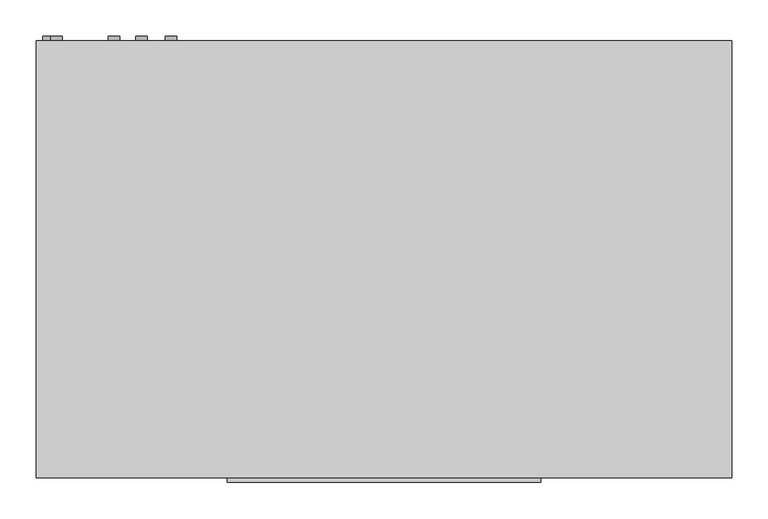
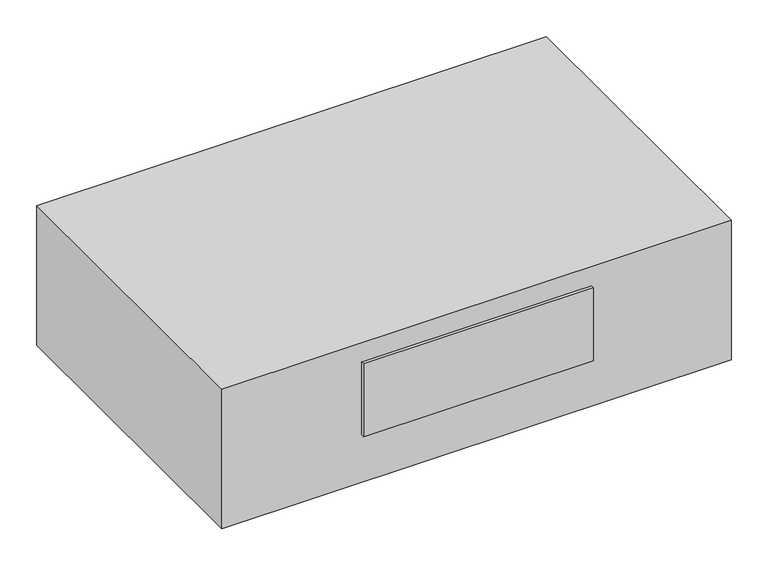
"""IFC4 building model written with IfcOpenShell, lengths in millimetres: proxy geometry, Exposed_Horizontal_Fan_Coil_Unit_-_42CGB_-_CARRIER_-_4-Pipe_FS-BR_LH_2022 : Size 02 - 277v/60Hz/1Ph - 4/1 Coil."""

from ifc_helpers import new_model, si_unit, point, frame, frame_2d, origin, place, context, project, spatial, polyline, circle_curve, trimmed, segment, composite_curve, outline, extrude, source, transform, mapped, element, save


def mechanical_equipment_85c1250f(model_context):
    return source(origin(), model_context, "Body", "SweptSolid", [
        extrude(outline(composite_curve([segment(trimmed(circle_curve(frame_2d((-261.434158, -311.3546393)), 9.525), [point((-261.434158, -301.8296393))], [point((-261.434158, -320.8796393))], False, "CARTESIAN"), True, "CONTINUOUS"), segment(trimmed(circle_curve(frame_2d((-261.434158, -311.3546393)), 9.525), [point((-261.434158, -320.8796393))], [point((-261.434158, -301.8296393))], False, "CARTESIAN"), True, "CONTINUOUS")], self_intersect=False)), frame((0.0, 65.0875, 0.0), z_axis=(0.0, 1.0, 0.0), x_axis=(0.0, 0.0, 1.0)), (0.0, 0.0, 1.0), 6.35),
        extrude(outline(composite_curve([segment(trimmed(circle_curve(frame_2d((-85.725, -301.625)), 7.9375), [point((-85.725, -293.6875))], [point((-85.725, -309.5625))], False, "CARTESIAN"), True, "CONTINUOUS"), segment(trimmed(circle_curve(frame_2d((-85.725, -301.625)), 7.9375), [point((-85.725, -309.5625))], [point((-85.725, -293.6875))], False, "CARTESIAN"), True, "CONTINUOUS")], self_intersect=False)), frame((0.0, 65.0875, 0.0), z_axis=(0.0, 1.0, 0.0), x_axis=(0.0, 0.0, 1.0)), (0.0, 0.0, 1.0), 6.35),
        extrude(outline(composite_curve([segment(trimmed(circle_curve(frame_2d((-44.45, -222.25)), 7.9375), [point((-44.45, -214.3125))], [point((-44.45, -230.1875))], False, "CARTESIAN"), True, "CONTINUOUS"), segment(trimmed(circle_curve(frame_2d((-44.45, -222.25)), 7.9375), [point((-44.45, -230.1875))], [point((-44.45, -214.3125))], False, "CARTESIAN"), True, "CONTINUOUS")], self_intersect=False)), frame((0.0, 65.0875, 0.0), z_axis=(0.0, 1.0, 0.0), x_axis=(0.0, 0.0, 1.0)), (0.0, 0.0, 1.0), 6.35),
        extrude(outline(composite_curve([segment(trimmed(circle_curve(frame_2d((-95.25, -184.15)), 7.9375), [point((-95.25, -176.2125))], [point((-95.25, -192.0875))], False, "CARTESIAN"), True, "CONTINUOUS"), segment(trimmed(circle_curve(frame_2d((-95.25, -184.15)), 7.9375), [point((-95.25, -192.0875))], [point((-95.25, -176.2125))], False, "CARTESIAN"), True, "CONTINUOUS")], self_intersect=False)), frame((0.0, 65.0875, 0.0), z_axis=(0.0, 1.0, 0.0), x_axis=(0.0, 0.0, 1.0)), (0.0, 0.0, 1.0), 6.35),
        extrude(outline(composite_curve([segment(trimmed(circle_curve(frame_2d((-60.325, -142.875)), 7.9375), [point((-60.325, -134.9375))], [point((-60.325, -150.8125))], False, "CARTESIAN"), True, "CONTINUOUS"), segment(trimmed(circle_curve(frame_2d((-60.325, -142.875)), 7.9375), [point((-60.325, -150.8125))], [point((-60.325, -134.9375))], False, "CARTESIAN"), True, "CONTINUOUS")], self_intersect=False)), frame((0.0, 65.0875, 0.0), z_axis=(0.0, 1.0, 0.0), x_axis=(0.0, 0.0, 1.0)), (0.0, 0.0, 1.0), 6.35),
        extrude(outline(polyline([(-330.2, 65.0875), (635.0, 65.0875), (635.0, -541.3375), (-330.2, -541.3375), (-330.2, 65.0875)])), frame((0.0, 0.0, -279.4), z_axis=(0.0, 0.0, 1.0), x_axis=(1.0, 0.0, 0.0)), (0.0, 0.0, 1.0), 279.4),
        extrude(outline(polyline([(369.8875, -547.6875), (-65.0875, -547.6875), (-65.0875, -541.3375), (369.8875, -541.3375), (369.8875, -547.6875)])), frame((0.0, 0.0, -184.15), z_axis=(0.0, 0.0, 1.0), x_axis=(1.0, 0.0, 0.0)), (0.0, 0.0, 1.0), 146.05),
        extrude(outline(polyline([(450.85, -11.1125), (450.85, -265.1125), (-146.05, -265.1125), (-146.05, -11.1125), (450.85, -11.1125)])), frame((0.0, 0.0, -285.75), z_axis=(0.0, 0.0, 1.0), x_axis=(1.0, 0.0, 0.0)), (0.0, 0.0, 1.0), 6.35),
    ])


if __name__ == "__main__":
    model = new_model("IFC4")
    model_context = context("Model", 3, world=origin())
    ifc_project = project(units=[si_unit("LENGTHUNIT", "METRE", prefix="MILLI")], contexts=[model_context])
    site = spatial("IfcSite", under=ifc_project)
    building = spatial("IfcBuilding", under=site)
    placement = place(None, origin())
    mechanical_equipment_shape = mechanical_equipment_85c1250f(model_context)
    element("IfcBuildingElementProxy", 1, Name="Exposed_Horizontal_Fan_Coil_Unit_-_42CGB_-_CARRIER_-_4-Pipe_FS-BR_LH_2022 : Size 02 - 277v/60Hz/1Ph - 4/1 Coil", ObjectType="Exposed_Horizontal_Fan_Coil_Unit_-_42CGB_-_CARRIER_-_4-Pipe_FS-BR_LH_2022 : Size 02 - 277v/60Hz/1Ph - 4/1 Coil", at=placement, inside=building, context=model_context, shape_type="MappedRepresentation", body=[
        mapped(mechanical_equipment_shape, transform((0.0, 0.0, 0.0), x_axis=(1.0, 0.0, 0.0), y_axis=(0.0, 1.0, 0.0), z_axis=(0.0, 0.0, 1.0))),
    ])
    save(model, "model.ifc")
